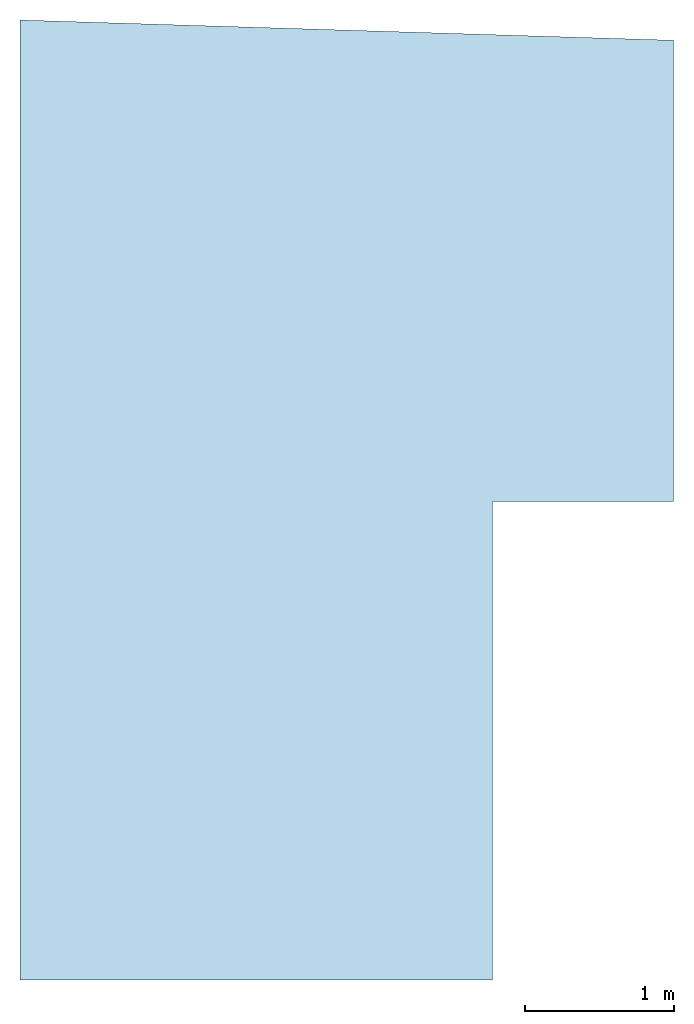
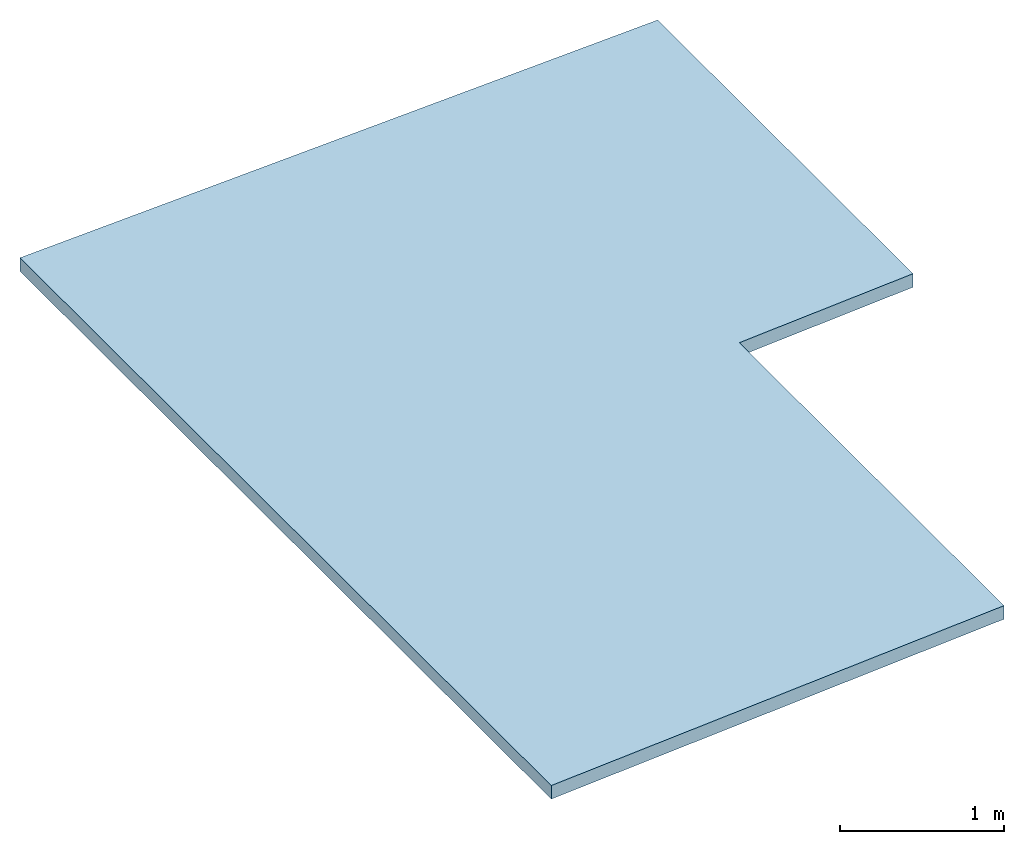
# One storey: 1 slab, 1 element without a shape of its own.
"""IFC2X3 building model written with IfcOpenShell, lengths in centimetres."""

import ifcopenshell
import ifcopenshell.guid

model = None  # the IFC model being written
_history = None  # IfcOwnerHistory: only IFC2X3 demands one
_inside = {}  # id of a spatial element -> (the spatial element, [elements in it])
_under = {}  # id of a project, library or spatial element -> (it, [spatial elements below it])
_declared = {}  # id of a project -> (the project, [libraries it declares])
_typed = {}  # id of a type object -> (the type object, [elements of that type])
_made_of = {}  # id of a material, layer set ... -> (it, [elements and type objects made of it])


def new_model(schema):
    """Start an empty IFC model of exactly this schema.

    Asked for "IFC4X3", IfcOpenShell would pick the latest addendum, in which some entities
    have other attributes; the version numbers below select the first issue.
    IFC2X3 requires an IfcOwnerHistory on every rooted entity: one is made here for all.
    """
    global model, _history
    if schema == "IFC4X3":
        model = ifcopenshell.file(schema_version=(4, 3, 0, 0))
    else:
        model = ifcopenshell.file(schema=schema)
    _inside.clear()
    _under.clear()
    _declared.clear()
    _typed.clear()
    _made_of.clear()
    _history = None
    if model.schema == "IFC2X3":
        org = make("IfcOrganization", Name="unknown")
        user = make(
            "IfcPersonAndOrganization",
            ThePerson=make("IfcPerson", FamilyName="unknown"),
            TheOrganization=org,
        )
        app = make(
            "IfcApplication",
            ApplicationDeveloper=org,
            Version="unknown",
            ApplicationFullName="unknown",
            ApplicationIdentifier="unknown",
        )
        _history = make(
            "IfcOwnerHistory",
            OwningUser=user,
            OwningApplication=app,
            ChangeAction="ADDED",
            CreationDate=0,
        )
    return model


def make(cls, **values):
    """One entity of the class cls with the attributes given. An attribute that is None is left unset."""
    return model.create_entity(
        cls, **{name: value for name, value in values.items() if value is not None}
    )


def entity(cls, *values):
    """Any entity or typed value of the class cls, its attributes in the order of the schema. None: left unset."""
    e = model.create_entity(cls)
    for i, value in enumerate(values):
        if value is not None:
            e[i] = value
    return e


def rooted(cls, **values):
    """An entity with a GlobalId (a new one), such as an element, a storey or a relation."""
    return make(cls, GlobalId=ifcopenshell.guid.new(), OwnerHistory=_history, **values)


def si_unit(unit_type, name, prefix=None):
    """IfcSIUnit, for example si_unit("LENGTHUNIT", "METRE", prefix="MILLI")."""
    return make("IfcSIUnit", UnitType=unit_type, Prefix=prefix, Name=name)


def converted_unit(unit_type, name, factor, base, dimensions=None, offset=None):
    """IfcConversionBasedUnit, such as the inch: factor (a typed value) times the base unit."""
    return make(
        "IfcConversionBasedUnit"
        if offset is None
        else "IfcConversionBasedUnitWithOffset",
        ConversionOffset=offset,
        Dimensions=None
        if dimensions is None
        else entity("IfcDimensionalExponents", *dimensions),
        UnitType=unit_type,
        Name=name,
        ConversionFactor=make(
            "IfcMeasureWithUnit", ValueComponent=factor, UnitComponent=base
        ),
    )


def derived_unit(unit_type, elements):
    """IfcDerivedUnit: a product of units, each with its exponent."""
    return make(
        "IfcDerivedUnit",
        Elements=[
            make("IfcDerivedUnitElement", Unit=unit, Exponent=power)
            for unit, power in elements
        ],
        UnitType=unit_type,
    )


def assignment(units):
    """IfcUnitAssignment: the units of a project."""
    return None if units is None else make("IfcUnitAssignment", Units=units)


def point(xyz):
    """IfcCartesianPoint."""
    return None if xyz is None else make("IfcCartesianPoint", Coordinates=xyz)


def direction(xyz):
    """IfcDirection."""
    return None if xyz is None else make("IfcDirection", DirectionRatios=xyz)


def frame(location, z_axis=None, x_axis=None):
    """IfcAxis2Placement3D, a coordinate frame: its origin and axes. An axis left out is left unset."""
    return make(
        "IfcAxis2Placement3D",
        Location=point(location),
        Axis=direction(z_axis),
        RefDirection=direction(x_axis),
    )


def origin():
    """The frame at (0, 0, 0) with its axes left unset."""
    return frame((0.0, 0.0, 0.0))


def place(relative_to, where):
    """IfcLocalPlacement: puts the frame where relative to a parent placement (None: the world)."""
    return make(
        "IfcLocalPlacement", PlacementRelTo=relative_to, RelativePlacement=where
    )


def context(
    kind, dimensions, precision=None, world=None, true_north=None, identifier=None
):
    """IfcGeometricRepresentationContext, for example the 3D "Model" context."""
    return make(
        "IfcGeometricRepresentationContext",
        ContextIdentifier=identifier,
        ContextType=kind,
        CoordinateSpaceDimension=dimensions,
        Precision=precision,
        WorldCoordinateSystem=world,
        TrueNorth=true_north,
    )


def subcontext(parent, identifier, kind, view, scale=None):
    """IfcGeometricRepresentationSubContext, for example "Body" below "Model"."""
    return make(
        "IfcGeometricRepresentationSubContext",
        ContextIdentifier=identifier,
        ContextType=kind,
        ParentContext=parent,
        TargetScale=scale,
        TargetView=view,
    )


def project(units=None, contexts=None):
    """IfcProject with its units and contexts."""
    return rooted(
        "IfcProject",
        Name="project",
        RepresentationContexts=contexts,
        UnitsInContext=assignment(units),
    )


def spatial(cls, under=None, at=None, **own):
    """A site, building, storey or space (cls), placed at a placement, below another one or the project."""
    s = rooted(cls, ObjectPlacement=at, **own)
    if under is not None:
        _under.setdefault(under.id(), (under, []))[1].append(s)
    return s


def polyline(points):
    """IfcPolyline through the points."""
    return make("IfcPolyline", Points=[point(p) for p in points])


def outline(outer, holes=None, kind="AREA"):
    """IfcArbitraryClosedProfileDef: a profile drawn as a closed curve; with holes, ...WithVoids."""
    if holes is None:
        return make("IfcArbitraryClosedProfileDef", ProfileType=kind, OuterCurve=outer)
    return make(
        "IfcArbitraryProfileDefWithVoids",
        ProfileType=kind,
        OuterCurve=outer,
        InnerCurves=holes,
    )


def extrude(swept, where, along, depth):
    """IfcExtrudedAreaSolid: the profile swept, set in the frame where, extruded along a direction by depth."""
    return make(
        "IfcExtrudedAreaSolid",
        SweptArea=swept,
        Position=where,
        ExtrudedDirection=direction(along),
        Depth=depth,
    )


def shape(context_of_items, identifier, shape_type, items):
    """IfcShapeRepresentation: the items that make up one representation, for example the "Body"."""
    return make(
        "IfcShapeRepresentation",
        ContextOfItems=context_of_items,
        RepresentationIdentifier=identifier,
        RepresentationType=shape_type,
        Items=items,
    )


def material(Name=None, Category=None):
    """IfcMaterial."""
    return make("IfcMaterial", Name=Name, Category=Category)


def layer(
    of_material, thickness, ventilated=None, Name=None, Category=None, Priority=None
):
    """IfcMaterialLayer: one layer of a wall or slab, of a material (None: an air gap)."""
    return make(
        "IfcMaterialLayer",
        Material=of_material,
        LayerThickness=thickness,
        IsVentilated=ventilated,
        Name=Name,
        Category=Category,
        Priority=Priority,
    )


def layer_set(layers, Name=None):
    """IfcMaterialLayerSet."""
    return make("IfcMaterialLayerSet", MaterialLayers=layers, LayerSetName=Name)


def made_of(thing, what):
    """Note that an element or type object is made of a material, layer set ...; save() writes the relation."""
    if what is not None:
        _made_of.setdefault(what.id(), (what, []))[1].append(thing)
    return thing


def type_object(cls, material=None, **own):
    """A type object (cls), such as IfcWallType, which elements share."""
    return made_of(rooted(cls, **own), material)


def element(
    cls,
    number,
    at=None,
    inside=None,
    cuts=None,
    type_object=None,
    material=None,
    context=None,
    identifier="Body",
    shape_type=None,
    held_by="IfcProductDefinitionShape",
    body=None,
    shapes=None,
    **own,
):
    """One element of the class cls, such as IfcWall. Its Tag is "e" and its number.

    at: its placement. inside: the storey or other place that contains it. cuts: it is an
    opening in that element (IfcRelVoidsElement). A single representation is given by context,
    identifier, shape_type and body (its items); several are given by shapes. held_by: the class
    of the entity that holds the representations. save() writes the other relations.
    """
    e = rooted(cls, Tag="e%d" % number, ObjectPlacement=at, **own)
    if body is not None:
        shapes = [shape(context, identifier, shape_type, body)]
    if shapes is not None:
        e.Representation = make(held_by, Representations=shapes)
    if inside is not None:
        _inside.setdefault(inside.id(), (inside, []))[1].append(e)
    if cuts is not None:
        rooted(
            "IfcRelVoidsElement", RelatingBuildingElement=cuts, RelatedOpeningElement=e
        )
    if type_object is not None:
        _typed.setdefault(type_object.id(), (type_object, []))[1].append(e)
    return made_of(e, material)


def aggregate(whole, parts):
    """IfcRelAggregates: a whole, such as a stair, and the parts it consists of."""
    return rooted("IfcRelAggregates", RelatingObject=whole, RelatedObjects=parts)


def save(model, path):
    """Write the relations noted so far, then the file.

    IfcRelAggregates (storeys below a building ...), IfcRelContainedInSpatialStructure (elements
    in a storey), IfcRelDefinesByType, IfcRelAssociatesMaterial and IfcRelDeclares: one each for
    every whole, place, type object, material and project.
    """
    for whole, parts in _under.values():
        aggregate(whole, parts)
    for where, things in _inside.values():
        rooted(
            "IfcRelContainedInSpatialStructure",
            RelatedElements=things,
            RelatingStructure=where,
        )
    for kind, things in _typed.values():
        rooted("IfcRelDefinesByType", RelatedObjects=things, RelatingType=kind)
    for what, things in _made_of.values():
        rooted("IfcRelAssociatesMaterial", RelatedObjects=things, RelatingMaterial=what)
    for by, libraries in _declared.values():
        rooted("IfcRelDeclares", RelatingContext=by, RelatedDefinitions=libraries)
    model.write(path)


model = new_model("IFC2X3")

# Units and contexts
model_context = context("Model", 3, precision=0.001, world=origin(), true_north=direction((6.123031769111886e-17, 1.0)))
body_context = subcontext(model_context, "Body", "Model", "MODEL_VIEW")
ifc_project = project(units=[si_unit("LENGTHUNIT", "METRE", prefix="CENTI"), si_unit("AREAUNIT", "SQUARE_METRE"), si_unit("VOLUMEUNIT", "CUBIC_METRE"), converted_unit("PLANEANGLEUNIT", "DEGREE", entity("IfcRatioMeasure", 0.017453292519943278), si_unit("PLANEANGLEUNIT", "RADIAN"), dimensions=[0, 0, 0, 0, 0, 0, 0]), si_unit("MASSUNIT", "GRAM", prefix="KILO"), derived_unit("MASSDENSITYUNIT", [(si_unit("MASSUNIT", "GRAM", prefix="KILO"), 1), (si_unit("LENGTHUNIT", "METRE"), -3)]), derived_unit("MOMENTOFINERTIAUNIT", [(si_unit("LENGTHUNIT", "METRE"), 4)]), si_unit("TIMEUNIT", "SECOND"), si_unit("FREQUENCYUNIT", "HERTZ"), si_unit("THERMODYNAMICTEMPERATUREUNIT", "DEGREE_CELSIUS"), derived_unit("THERMALTRANSMITTANCEUNIT", [(si_unit("MASSUNIT", "GRAM", prefix="KILO"), 1), (si_unit("THERMODYNAMICTEMPERATUREUNIT", "KELVIN"), -1), (si_unit("TIMEUNIT", "SECOND"), -3)]), derived_unit("THERMALCONDUCTANCEUNIT", [(si_unit("MASSUNIT", "GRAM", prefix="KILO"), 1), (si_unit("LENGTHUNIT", "METRE"), 1), (si_unit("THERMODYNAMICTEMPERATUREUNIT", "KELVIN"), -1), (si_unit("TIMEUNIT", "SECOND"), -3)]), derived_unit("VOLUMETRICFLOWRATEUNIT", [(si_unit("LENGTHUNIT", "METRE"), 3), (si_unit("TIMEUNIT", "SECOND"), -1)]), derived_unit("MASSFLOWRATEUNIT", [(si_unit("MASSUNIT", "GRAM", prefix="KILO"), 1), (si_unit("TIMEUNIT", "SECOND"), -1)]), derived_unit("ROTATIONALFREQUENCYUNIT", [(si_unit("TIMEUNIT", "SECOND"), -1)]), si_unit("ELECTRICCURRENTUNIT", "AMPERE"), si_unit("ELECTRICVOLTAGEUNIT", "VOLT"), si_unit("POWERUNIT", "WATT"), si_unit("FORCEUNIT", "NEWTON", prefix="KILO"), si_unit("ILLUMINANCEUNIT", "LUX"), si_unit("LUMINOUSFLUXUNIT", "LUMEN"), si_unit("LUMINOUSINTENSITYUNIT", "CANDELA"), derived_unit("USERDEFINED", [(si_unit("MASSUNIT", "GRAM", prefix="KILO"), -1), (si_unit("LENGTHUNIT", "METRE"), -2), (si_unit("TIMEUNIT", "SECOND"), 3), (si_unit("LUMINOUSFLUXUNIT", "LUMEN"), 1)]), derived_unit("USERDEFINED", [(si_unit("MASSUNIT", "GRAM", prefix="KILO"), 1), (si_unit("LENGTHUNIT", "METRE"), 3), (si_unit("TIMEUNIT", "SECOND"), -3), (si_unit("ELECTRICCURRENTUNIT", "AMPERE"), -2)]), derived_unit("USERDEFINED", [(si_unit("LENGTHUNIT", "METRE"), 2), (si_unit("TIMEUNIT", "SECOND"), -2)]), derived_unit("SOUNDPOWERUNIT", [(si_unit("MASSUNIT", "GRAM", prefix="KILO"), 1), (si_unit("LENGTHUNIT", "METRE"), 2), (si_unit("TIMEUNIT", "SECOND"), -3)]), derived_unit("SOUNDPRESSUREUNIT", [(si_unit("MASSUNIT", "GRAM", prefix="KILO"), 1), (si_unit("LENGTHUNIT", "METRE"), -1), (si_unit("TIMEUNIT", "SECOND"), -2)]), derived_unit("LINEARVELOCITYUNIT", [(si_unit("LENGTHUNIT", "METRE"), 1), (si_unit("TIMEUNIT", "SECOND"), -1)]), si_unit("PRESSUREUNIT", "PASCAL"), derived_unit("USERDEFINED", [(si_unit("LENGTHUNIT", "METRE"), -2), (si_unit("MASSUNIT", "GRAM", prefix="KILO"), 1), (si_unit("TIMEUNIT", "SECOND"), -2)]), derived_unit("LINEARFORCEUNIT", [(si_unit("MASSUNIT", "GRAM", prefix="KILO"), 1), (si_unit("LENGTHUNIT", "METRE"), 1), (si_unit("TIMEUNIT", "SECOND"), -2), (si_unit("LENGTHUNIT", "METRE"), -1)]), derived_unit("PLANARFORCEUNIT", [(si_unit("MASSUNIT", "GRAM", prefix="KILO"), 1), (si_unit("LENGTHUNIT", "METRE"), 1), (si_unit("TIMEUNIT", "SECOND"), -2), (si_unit("LENGTHUNIT", "METRE"), -2)]), derived_unit("SPECIFICHEATCAPACITYUNIT", [(si_unit("LENGTHUNIT", "METRE"), 2), (si_unit("TIMEUNIT", "SECOND"), -2), (si_unit("THERMODYNAMICTEMPERATUREUNIT", "KELVIN"), -1)]), derived_unit("VAPORPERMEABILITYUNIT", [(si_unit("TIMEUNIT", "SECOND"), 1), (si_unit("LENGTHUNIT", "METRE"), -1)]), derived_unit("DYNAMICVISCOSITYUNIT", [(si_unit("MASSUNIT", "GRAM", prefix="KILO"), 1), (si_unit("LENGTHUNIT", "METRE"), -1), (si_unit("TIMEUNIT", "SECOND"), -1)]), derived_unit("THERMALEXPANSIONCOEFFICIENTUNIT", [(si_unit("THERMODYNAMICTEMPERATUREUNIT", "KELVIN"), -1)])], contexts=[model_context])

# Site, building, storey
site_placement = place(None, origin())
site = spatial("IfcSite", under=ifc_project, at=site_placement, Name="Default", CompositionType="ELEMENT")
building_placement = place(site_placement, origin())
building = spatial("IfcBuilding", under=site, at=building_placement, CompositionType="ELEMENT")
storey_placement = place(building_placement, frame((0.0, 0.0, 307.0)))
storey = spatial("IfcBuildingStorey", under=building, at=storey_placement, Name="X_Arase garage", CompositionType="ELEMENT", Elevation=307.0)

# Roof, slab
ifc_material = material(Name="Asphalte, bitume(1)")
ifc_layer = layer(ifc_material, 10.0)
ifc_layer_set = layer_set([ifc_layer], Name="Toit de base:Toit plat - 100 mm")
roof_placement = place(storey_placement, frame((-1040.0684437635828, 56.64664587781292, -55.82447006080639)))
roof = element("IfcRoof", 1, at=roof_placement, inside=storey, material=ifc_layer_set, Name="Toit de base:Toit plat - 100 mm", ObjectType="Toit de base:Toit plat - 100 mm", ShapeType="NOTDEFINED")
slab_type = type_object("IfcSlabType", Name="Toit de base:Toit plat - 100 mm", PredefinedType="ROOF")
slab_placement = place(roof_placement, origin())
slab = element("IfcSlab", 2, at=slab_placement, type_object=slab_type, material=ifc_layer_set, Name="Toit de base:Toit plat - 100 mm", ObjectType="Toit de base:Toit plat - 100 mm", PredefinedType="ROOF", context=body_context, shape_type="SweptSolid", body=[
    extrude(outline(polyline([(98.23980659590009, -323.1538094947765), (98.23980659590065, -1.1538094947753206), (220.53834133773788, -1.1538094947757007), (220.53834133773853, 309.51744585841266), (-220.53834133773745, 323.15380949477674), (-220.5383413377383, -323.15380949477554), (98.23980659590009, -323.1538094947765)])), frame((220.0, 323.15380949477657, 15.400000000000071), z_axis=(-0.06982912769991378, 0.0, 0.9975589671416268), x_axis=(0.9975589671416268, 0.0, 0.06982912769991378)), (0.06982912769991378, 0.0, 0.9975589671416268), 10.024470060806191),
])
aggregate(roof, [slab])

save(model, "model.ifc")
